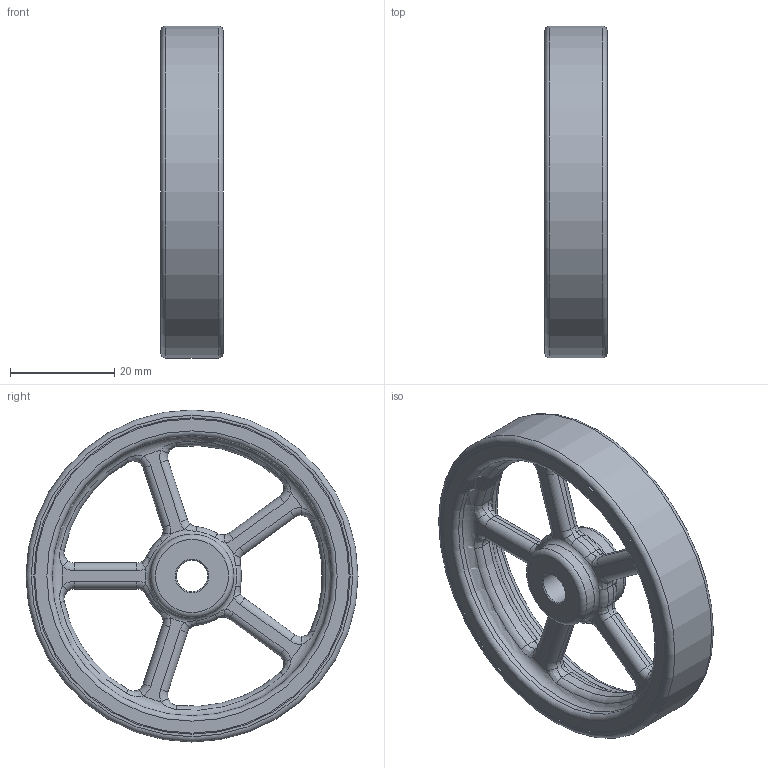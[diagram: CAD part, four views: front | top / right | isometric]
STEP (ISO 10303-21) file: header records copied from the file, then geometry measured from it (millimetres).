
FILE_DESCRIPTION (( 'STEP AP214' ), '1' );
FILE_NAME ('9109_6.STEP', '2020-05-11T11:18:30', ( '' ), ( '' ), 'SwSTEP 2.0', 'SolidWorks 2019', '' );
FILE_SCHEMA (( 'AUTOMOTIVE_DESIGN' ));
Length unit declared in the file: millimetre
Products named in the file (4): RUO.9109; 9109_6; GRA.3X4.1
Assembly tree (3 placements, depth 3):
  9109_6
    RUO.9109
      RUO.9109
      GRA.3X4.1
Bounding box: 12 x 63.66 x 63.66 mm (x, y, z)
Volume: 16163.9 mm3; surface area: 8619.3 mm2
Topology: 2 solids, 2 shells, 215 faces, 509 edges, 294 vertices
Faces by surface type: torus 70, cylinder 63, bspline 40, plane 37, cone 5
Full cylindrical faces by diameter (mm): 2.5 x1, 3 x1, 6 x1, 16 x1, 53.66 x2, 60.26 x2, 60.66 x2, 63.66 x1
Entity records: 7953 total; most frequent: CARTESIAN_POINT 3044, DIRECTION 1050, ORIENTED_EDGE 954, EDGE_CURVE 477, AXIS2_PLACEMENT_3D 476, CIRCLE 294, VERTEX_POINT 288, EDGE_LOOP 251
